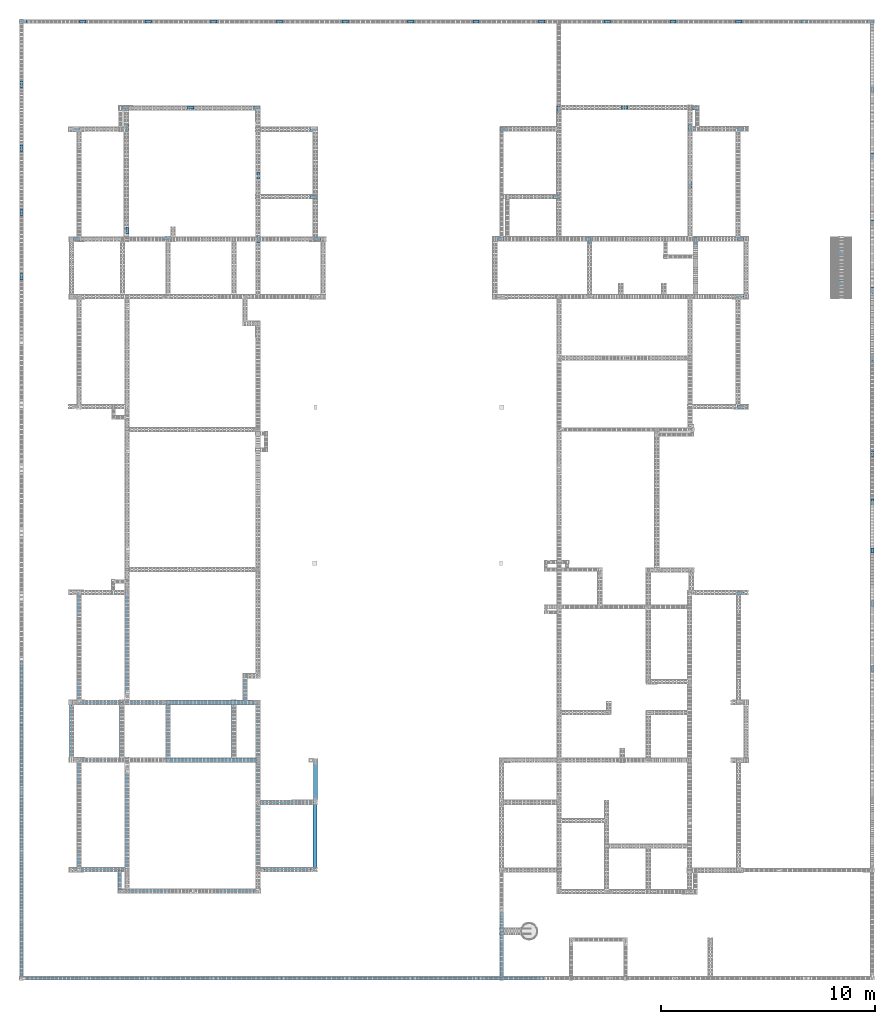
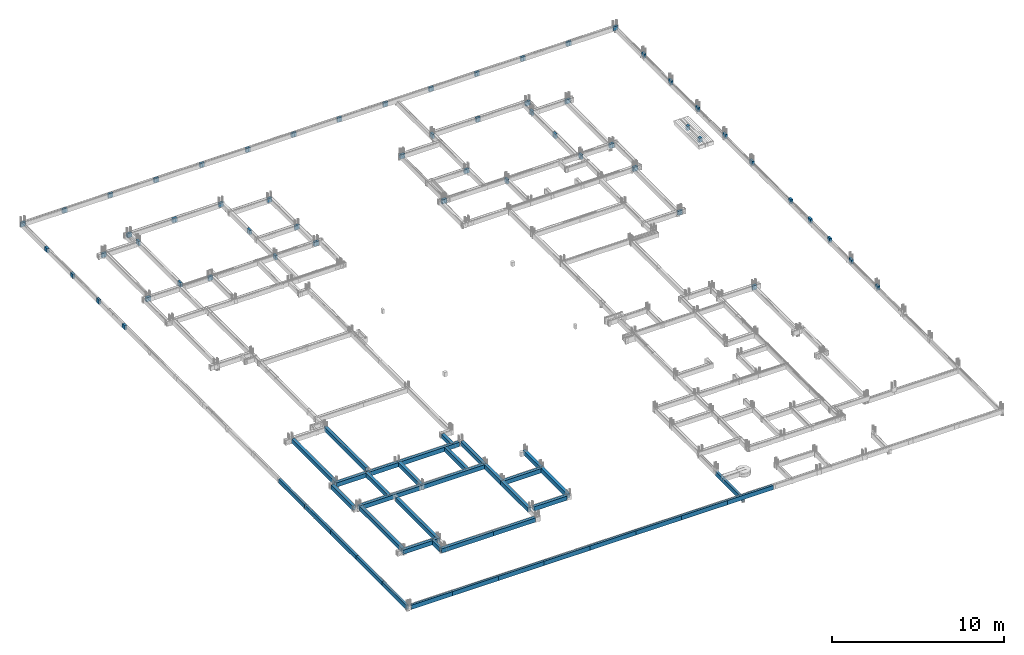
# One storey, part 2 of 150: 58 columns, 38 beams.
"""IFC4 building model written with IfcOpenShell, lengths in centimetres."""

from ifc_helpers import new_model, si_unit, derived_unit, frame, origin_with_axes, origin_2d_with_axis, place, context, project, spatial, rectangle, extrude, material, element, save


model = new_model("IFC4")

# Units and contexts
model_context = context("Model", 3, precision=1e-05, world=origin_with_axes(), identifier="Body")
ifc_project = project(units=[si_unit("LENGTHUNIT", "METRE", prefix="CENTI"), si_unit("VOLUMEUNIT", "CUBIC_METRE"), si_unit("AREAUNIT", "SQUARE_METRE"), si_unit("POWERUNIT", "WATT"), si_unit("LUMINOUSFLUXUNIT", "LUMEN"), si_unit("ELECTRICCURRENTUNIT", "AMPERE"), si_unit("PRESSUREUNIT", "PASCAL", prefix="KILO"), si_unit("MASSUNIT", "GRAM", prefix="KILO"), si_unit("PLANEANGLEUNIT", "RADIAN"), derived_unit("VOLUMETRICFLOWRATEUNIT", [(si_unit("LENGTHUNIT", "METRE"), 3), (si_unit("TIMEUNIT", "SECOND"), -1)])], contexts=[model_context])

# Site, building, storey
site_placement = place(None, frame((-4000.0, 0.0, 0.0), z_axis=(0.0, 0.0, 1.0), x_axis=(1.0, 0.0, 0.0)))
site = spatial("IfcSite", under=ifc_project, at=site_placement, Name="PADRÃO")
building_placement = place(site_placement, frame((0.0, 0.0, -14.0)))
building = spatial("IfcBuilding", under=site, at=building_placement, Name="CRECHE PRÉ-ESCOLA TIPO 2")
placement = place(building_placement, origin_with_axes())
storey_placement = place(placement, frame((0.0, 0.0, 30.0), z_axis=(0.0, 0.0, 1.0), x_axis=(1.0, 0.0, 0.0)))
storey = spatial("IfcBuildingStorey", under=building, at=storey_placement, Name="VIGA BALDRAME", CompositionType="ELEMENT", Elevation=16.0)

# Columns
ifc_material = material(Name="Concreto")
for number, where, z_axis, x_axis, name in (
    (1, (16.5, 4488.5, 0.0), (0.0, 0.0, 1.0), (1.0, 0.0, 0.0), "P1"),
    (2, (2751.0, 4488.5, 0.0), (0.0, 0.0, 1.0), (1.0, 0.0, 0.0), "P10"),
):
    element("IfcColumn", number, at=place(storey_placement, frame(where, z_axis=z_axis, x_axis=x_axis)), inside=storey, material=ifc_material, Name=name, context=model_context, shape_type="SolidModel", body=[
        extrude(rectangle(XDim=14.0, YDim=30.0, at=origin_2d_with_axis()), frame((0.0, 0.0, 0.0), z_axis=(0.0, 0.0, 1.0), x_axis=(0.0, -1.0, 0.0)), (0.0, 0.0, -1.0), 30.0),
    ])
for number, where, z_axis, x_axis, name in (
    (3, (3993.0, 1764.11, 0.0), (0.0, 0.0, 1.0), (1.0, 0.0, 0.0), "P100"),
    (4, (3993.0, 1458.11, 0.0), (0.0, 0.0, 1.0), (1.0, 0.0, 0.0), "P103"),
):
    element("IfcColumn", number, at=place(storey_placement, frame(where, z_axis=z_axis, x_axis=x_axis)), inside=storey, material=ifc_material, Name=name, context=model_context, shape_type="SolidModel", body=[
        extrude(rectangle(XDim=14.0, YDim=30.0, at=origin_2d_with_axis()), frame((0.0, 0.0, 0.0), z_axis=(0.0, 0.0, 1.0), x_axis=(-1.0, 0.0, 0.0)), (0.0, 0.0, -1.0), 30.0),
    ])
for number, where, z_axis, x_axis, name in (
    (5, (3058.0, 4488.12, 0.0), (0.0, 0.0, 1.0), (1.0, 0.0, 0.0), "P11"),
    (6, (3365.0, 4488.0, 0.0), (0.0, 0.0, 1.0), (1.0, 0.0, 0.0), "P12"),
    (7, (3672.0, 4488.0, 0.0), (0.0, 0.0, 1.0), (1.0, 0.0, 0.0), "P13"),
    (8, (3984.0, 4488.0, 0.0), (0.0, 0.0, 1.0), (1.0, 0.0, 0.0), "P14"),
):
    element("IfcColumn", number, at=place(storey_placement, frame(where, z_axis=z_axis, x_axis=x_axis)), inside=storey, material=ifc_material, Name=name, context=model_context, shape_type="SolidModel", body=[
        extrude(rectangle(XDim=14.0, YDim=30.0, at=origin_2d_with_axis()), frame((0.0, 0.0, 0.0), z_axis=(0.0, 0.0, 1.0), x_axis=(0.0, -1.0, 0.0)), (0.0, 0.0, -1.0), 30.0),
    ])
column_1_placement = place(storey_placement, frame((8.5, 4194.5, 0.0), z_axis=(0.0, 0.0, 1.0), x_axis=(1.0, 0.0, 0.0)))
element("IfcColumn", 9, at=column_1_placement, inside=storey, material=ifc_material, Name="P15", context=model_context, shape_type="SolidModel", body=[
    extrude(rectangle(XDim=14.0, YDim=30.0, at=origin_2d_with_axis()), origin_with_axes(), (0.0, 0.0, -1.0), 30.0),
])
column_2_placement = place(storey_placement, frame((3992.0, 4168.5, 0.0), z_axis=(0.0, 0.0, 1.0), x_axis=(1.0, 0.0, 0.0)))
element("IfcColumn", 10, at=column_2_placement, inside=storey, material=ifc_material, Name="P16", context=model_context, shape_type="SolidModel", body=[
    extrude(rectangle(XDim=14.0, YDim=30.0, at=origin_2d_with_axis()), frame((0.0, 0.0, 0.0), z_axis=(0.0, 0.0, 1.0), x_axis=(-1.0, 0.0, 0.0)), (0.0, 0.0, -1.0), 30.0),
])
column_3_placement = place(storey_placement, frame((494.67, 4085.0, 0.0), z_axis=(0.0, 0.0, 1.0), x_axis=(1.0, 0.0, 0.0)))
element("IfcColumn", 11, at=column_3_placement, inside=storey, material=ifc_material, Name="P17", context=model_context, shape_type="SolidModel", body=[
    extrude(rectangle(XDim=14.0, YDim=30.0, at=origin_2d_with_axis()), frame((0.0, 0.0, 0.0), z_axis=(0.0, 0.0, 1.0), x_axis=(0.0, 1.0, 0.0)), (0.0, 0.0, -1.0), 30.0),
])
for number, where, z_axis, x_axis, name in (
    (12, (799.85, 4085.0, 0.0), (0.0, 0.0, 1.0), (1.0, 0.0, 0.0), "P18"),
    (13, (1109.71, 4085.0, 0.0), (0.0, 0.0, 1.0), (1.0, 0.0, 0.0), "P19"),
    (14, (295.0, 4488.5, 0.0), (0.0, 0.0, 1.0), (1.0, 0.0, 0.0), "P2"),
):
    element("IfcColumn", number, at=place(storey_placement, frame(where, z_axis=z_axis, x_axis=x_axis)), inside=storey, material=ifc_material, Name=name, context=model_context, shape_type="SolidModel", body=[
        extrude(rectangle(XDim=14.0, YDim=30.0, at=origin_2d_with_axis()), frame((0.0, 0.0, 0.0), z_axis=(0.0, 0.0, 1.0), x_axis=(0.0, -1.0, 0.0)), (0.0, 0.0, -1.0), 30.0),
    ])
column_4_placement = place(storey_placement, frame((2522.5, 4077.02, 0.0), z_axis=(0.0, 0.0, 1.0), x_axis=(1.0, 0.0, 0.0)))
element("IfcColumn", 15, at=column_4_placement, inside=storey, material=ifc_material, Name="P20", context=model_context, shape_type="SolidModel", body=[
    extrude(rectangle(XDim=14.0, YDim=30.0, at=origin_2d_with_axis()), origin_with_axes(), (0.0, 0.0, -1.0), 30.0),
])
for number, where, z_axis, x_axis, name in (
    (16, (2831.98, 4085.02, 0.0), (0.0, 0.0, 1.0), (1.0, 0.0, 0.0), "P21"),
    (17, (3163.5, 4084.02, 0.0), (0.0, 0.0, 1.0), (1.0, 0.0, 0.0), "P22"),
    (18, (267.0, 3985.0, 0.0), (0.0, 0.0, 1.0), (1.0, 0.0, 0.0), "P23"),
):
    element("IfcColumn", number, at=place(storey_placement, frame(where, z_axis=z_axis, x_axis=x_axis)), inside=storey, material=ifc_material, Name=name, context=model_context, shape_type="SolidModel", body=[
        extrude(rectangle(XDim=14.0, YDim=30.0, at=origin_2d_with_axis()), frame((0.0, 0.0, 0.0), z_axis=(0.0, 0.0, 1.0), x_axis=(0.0, -1.0, 0.0)), (0.0, 0.0, -1.0), 30.0),
    ])
column_5_placement = place(storey_placement, frame((503.67, 3991.5, 0.0), z_axis=(0.0, 0.0, 1.0), x_axis=(1.0, 0.0, 0.0)))
element("IfcColumn", 19, at=column_5_placement, inside=storey, material=ifc_material, Name="P24", context=model_context, shape_type="SolidModel", body=[
    extrude(rectangle(XDim=14.0, YDim=30.0, at=origin_2d_with_axis()), origin_with_axes(), (0.0, 0.0, -1.0), 30.0),
])
column_6_placement = place(storey_placement, frame((1376.84, 3985.0, 0.0), z_axis=(0.0, 0.0, 1.0), x_axis=(1.0, 0.0, 0.0)))
element("IfcColumn", 20, at=column_6_placement, inside=storey, material=ifc_material, Name="P25", context=model_context, shape_type="SolidModel", body=[
    extrude(rectangle(XDim=14.0, YDim=30.0, at=origin_2d_with_axis()), frame((0.0, 0.0, 0.0), z_axis=(0.0, 0.0, 1.0), x_axis=(0.0, -1.0, 0.0)), (0.0, 0.0, -1.0), 30.0),
])
column_7_placement = place(storey_placement, frame((2266.76, 3985.0, 0.0), z_axis=(0.0, 0.0, 1.0), x_axis=(1.0, 0.0, 0.0)))
element("IfcColumn", 21, at=column_7_placement, inside=storey, material=ifc_material, Name="P26", context=model_context, shape_type="SolidModel", body=[
    extrude(rectangle(XDim=17.0, YDim=30.0, at=origin_2d_with_axis()), frame((0.0, 0.0, 0.0), z_axis=(0.0, 0.0, 1.0), x_axis=(0.0, -1.0, 0.0)), (0.0, 0.0, -1.0), 30.0),
])
column_8_placement = place(storey_placement, frame((3138.5, 3991.51, 0.0), z_axis=(0.0, 0.0, 1.0), x_axis=(1.0, 0.0, 0.0)))
element("IfcColumn", 22, at=column_8_placement, inside=storey, material=ifc_material, Name="P27", context=model_context, shape_type="SolidModel", body=[
    extrude(rectangle(XDim=14.0, YDim=30.0, at=origin_2d_with_axis()), origin_with_axes(), (0.0, 0.0, -1.0), 30.0),
])
column_9_placement = place(storey_placement, frame((3375.0, 3985.01, 0.0), z_axis=(0.0, 0.0, 1.0), x_axis=(1.0, 0.0, 0.0)))
element("IfcColumn", 23, at=column_9_placement, inside=storey, material=ifc_material, Name="P28", context=model_context, shape_type="SolidModel", body=[
    extrude(rectangle(XDim=14.0, YDim=30.0, at=origin_2d_with_axis()), frame((0.0, 0.0, 0.0), z_axis=(0.0, 0.0, 1.0), x_axis=(0.0, -1.0, 0.0)), (0.0, 0.0, -1.0), 30.0),
])
column_10_placement = place(storey_placement, frame((8.5, 3894.5, 0.0), z_axis=(0.0, 0.0, 1.0), x_axis=(1.0, 0.0, 0.0)))
element("IfcColumn", 24, at=column_10_placement, inside=storey, material=ifc_material, Name="P29", context=model_context, shape_type="SolidModel", body=[
    extrude(rectangle(XDim=14.0, YDim=30.0, at=origin_2d_with_axis()), origin_with_axes(), (0.0, 0.0, -1.0), 30.0),
])
column_11_placement = place(storey_placement, frame((602.0, 4488.45, 0.0), z_axis=(0.0, 0.0, 1.0), x_axis=(1.0, 0.0, 0.0)))
element("IfcColumn", 25, at=column_11_placement, inside=storey, material=ifc_material, Name="P3", context=model_context, shape_type="SolidModel", body=[
    extrude(rectangle(XDim=14.0, YDim=30.0, at=origin_2d_with_axis()), frame((0.0, 0.0, 0.0), z_axis=(0.0, 0.0, 1.0), x_axis=(0.0, -1.0, 0.0)), (0.0, 0.0, -1.0), 30.0),
])
column_12_placement = place(storey_placement, frame((3992.0, 3855.0, 0.0), z_axis=(0.0, 0.0, 1.0), x_axis=(1.0, 0.0, 0.0)))
element("IfcColumn", 26, at=column_12_placement, inside=storey, material=ifc_material, Name="P30", context=model_context, shape_type="SolidModel", body=[
    extrude(rectangle(XDim=14.0, YDim=30.0, at=origin_2d_with_axis()), frame((0.0, 0.0, 0.0), z_axis=(0.0, 0.0, 1.0), x_axis=(-1.0, 0.0, 0.0)), (0.0, 0.0, -1.0), 30.0),
])
for number, where, z_axis, x_axis, name in (
    (27, (1118.72, 3767.78, 0.0), (0.0, 0.0, 1.0), (1.0, 0.0, 0.0), "P31"),
    (28, (3139.43, 3723.26, 0.0), (0.0, 0.0, 1.0), (1.0, 0.0, 0.0), "P32"),
):
    element("IfcColumn", number, at=place(storey_placement, frame(where, z_axis=z_axis, x_axis=x_axis)), inside=storey, material=ifc_material, Name=name, context=model_context, shape_type="SolidModel", body=[
        extrude(rectangle(XDim=14.0, YDim=30.0, at=origin_2d_with_axis()), origin_with_axes(), (0.0, 0.0, -1.0), 30.0),
    ])
column_13_placement = place(storey_placement, frame((1376.84, 3667.5, 0.0), z_axis=(0.0, 0.0, 1.0), x_axis=(1.0, 0.0, 0.0)))
element("IfcColumn", 29, at=column_13_placement, inside=storey, material=ifc_material, Name="P33", context=model_context, shape_type="SolidModel", body=[
    extrude(rectangle(XDim=14.0, YDim=30.0, at=origin_2d_with_axis()), frame((0.0, 0.0, 0.0), z_axis=(0.0, 0.0, 1.0), x_axis=(0.0, 1.0, 0.0)), (0.0, 0.0, -1.0), 30.0),
])
column_14_placement = place(storey_placement, frame((2514.5, 3667.75, 0.0), z_axis=(0.0, 0.0, 1.0), x_axis=(1.0, 0.0, 0.0)))
element("IfcColumn", 30, at=column_14_placement, inside=storey, material=ifc_material, Name="P34", context=model_context, shape_type="SolidModel", body=[
    extrude(rectangle(XDim=14.0, YDim=30.0, at=origin_2d_with_axis()), frame((0.0, 0.0, 0.0), z_axis=(0.0, 0.0, 1.0), x_axis=(0.0, -1.0, 0.0)), (0.0, 0.0, -1.0), 30.0),
])
column_15_placement = place(storey_placement, frame((8.5, 3594.5, 0.0), z_axis=(0.0, 0.0, 1.0), x_axis=(1.0, 0.0, 0.0)))
element("IfcColumn", 31, at=column_15_placement, inside=storey, material=ifc_material, Name="P35", context=model_context, shape_type="SolidModel", body=[
    extrude(rectangle(XDim=14.0, YDim=30.0, at=origin_2d_with_axis()), origin_with_axes(), (0.0, 0.0, -1.0), 30.0),
])
column_16_placement = place(storey_placement, frame((267.01, 3470.0, 0.0), z_axis=(0.0, 0.0, 1.0), x_axis=(1.0, 0.0, 0.0)))
element("IfcColumn", 32, at=column_16_placement, inside=storey, material=ifc_material, Name="P36", context=model_context, shape_type="SolidModel", body=[
    extrude(rectangle(XDim=17.0, YDim=30.0, at=origin_2d_with_axis()), frame((0.0, 0.0, 0.0), z_axis=(0.0, 0.0, 1.0), x_axis=(0.0, -1.0, 0.0)), (0.0, 0.0, -1.0), 30.0),
])
column_17_placement = place(storey_placement, frame((503.67, 3508.5, 0.0), z_axis=(0.0, 0.0, 1.0), x_axis=(1.0, 0.0, 0.0)))
element("IfcColumn", 33, at=column_17_placement, inside=storey, material=ifc_material, Name="P37", context=model_context, shape_type="SolidModel", body=[
    extrude(rectangle(XDim=14.0, YDim=30.0, at=origin_2d_with_axis()), origin_with_axes(), (0.0, 0.0, -1.0), 30.0),
])
column_18_placement = place(storey_placement, frame((3992.0, 3541.5, 0.0), z_axis=(0.0, 0.0, 1.0), x_axis=(1.0, 0.0, 0.0)))
element("IfcColumn", 34, at=column_18_placement, inside=storey, material=ifc_material, Name="P38", context=model_context, shape_type="SolidModel", body=[
    extrude(rectangle(XDim=14.0, YDim=30.0, at=origin_2d_with_axis()), frame((0.0, 0.0, 0.0), z_axis=(0.0, 0.0, 1.0), x_axis=(-1.0, 0.0, 0.0)), (0.0, 0.0, -1.0), 30.0),
])
for number, where, z_axis, x_axis, name in (
    (35, (685.0, 3472.49, 0.0), (0.0, 0.0, 1.0), (1.0, 0.0, 0.0), "P39"),
    (36, (909.0, 4488.5, 0.0), (0.0, 0.0, 1.0), (1.0, 0.0, 0.0), "P4"),
):
    element("IfcColumn", number, at=place(storey_placement, frame(where, z_axis=z_axis, x_axis=x_axis)), inside=storey, material=ifc_material, Name=name, context=model_context, shape_type="SolidModel", body=[
        extrude(rectangle(XDim=14.0, YDim=30.0, at=origin_2d_with_axis()), frame((0.0, 0.0, 0.0), z_axis=(0.0, 0.0, 1.0), x_axis=(0.0, -1.0, 0.0)), (0.0, 0.0, -1.0), 30.0),
    ])
column_19_placement = place(storey_placement, frame((1118.72, 3470.0, 0.0), z_axis=(0.0, 0.0, 1.0), x_axis=(1.0, 0.0, 0.0)))
element("IfcColumn", 37, at=column_19_placement, inside=storey, material=ifc_material, Name="P40", context=model_context, shape_type="SolidModel", body=[
    extrude(rectangle(XDim=14.0, YDim=30.0, at=origin_2d_with_axis()), origin_with_axes(), (0.0, 0.0, -1.0), 30.0),
])
for number, where, z_axis, x_axis, name in (
    (38, (1392.84, 3470.02, 0.0), (0.0, 0.0, 1.0), (1.0, 0.0, 0.0), "P41"),
    (39, (2248.76, 3470.02, 0.0), (0.0, 0.0, 1.0), (1.0, 0.0, 0.0), "P42"),
):
    element("IfcColumn", number, at=place(storey_placement, frame(where, z_axis=z_axis, x_axis=x_axis)), inside=storey, material=ifc_material, Name=name, context=model_context, shape_type="SolidModel", body=[
        extrude(rectangle(XDim=17.0, YDim=30.0, at=origin_2d_with_axis()), frame((0.0, 0.0, 0.0), z_axis=(0.0, 0.0, 1.0), x_axis=(0.0, -1.0, 0.0)), (0.0, 0.0, -1.0), 30.0),
    ])
for number, where, z_axis, x_axis, name in (
    (40, (2668.0, 3464.58, 0.0), (0.0, 0.0, 1.0), (1.0, 0.0, 0.0), "P43"),
    (41, (3163.5, 3464.58, 0.0), (0.0, 0.0, 1.0), (1.0, 0.0, 0.0), "P44"),
):
    element("IfcColumn", number, at=place(storey_placement, frame(where, z_axis=z_axis, x_axis=x_axis)), inside=storey, material=ifc_material, Name=name, context=model_context, shape_type="SolidModel", body=[
        extrude(rectangle(XDim=14.0, YDim=30.0, at=origin_2d_with_axis()), origin_with_axes(), (0.0, 0.0, -1.0), 30.0),
    ])
column_20_placement = place(storey_placement, frame((3372.5, 3470.02, 0.0), z_axis=(0.0, 0.0, 1.0), x_axis=(1.0, 0.0, 0.0)))
element("IfcColumn", 42, at=column_20_placement, inside=storey, material=ifc_material, Name="P45", context=model_context, shape_type="SolidModel", body=[
    extrude(rectangle(XDim=17.0, YDim=30.0, at=origin_2d_with_axis()), frame((0.0, 0.0, 0.0), z_axis=(0.0, 0.0, 1.0), x_axis=(0.0, -1.0, 0.0)), (0.0, 0.0, -1.0), 30.0),
])
column_21_placement = place(storey_placement, frame((8.5, 3294.5, 0.0), z_axis=(0.0, 0.0, 1.0), x_axis=(1.0, 0.0, 0.0)))
element("IfcColumn", 43, at=column_21_placement, inside=storey, material=ifc_material, Name="P46", context=model_context, shape_type="SolidModel", body=[
    extrude(rectangle(XDim=14.0, YDim=30.0, at=origin_2d_with_axis()), origin_with_axes(), (0.0, 0.0, -1.0), 30.0),
])
column_22_placement = place(storey_placement, frame((1216.0, 4488.5, 0.0), z_axis=(0.0, 0.0, 1.0), x_axis=(1.0, 0.0, 0.0)))
element("IfcColumn", 44, at=column_22_placement, inside=storey, material=ifc_material, Name="P5", context=model_context, shape_type="SolidModel", body=[
    extrude(rectangle(XDim=14.0, YDim=30.0, at=origin_2d_with_axis()), frame((0.0, 0.0, 0.0), z_axis=(0.0, 0.0, 1.0), x_axis=(0.0, -1.0, 0.0)), (0.0, 0.0, -1.0), 30.0),
])
column_23_placement = place(storey_placement, frame((3372.5, 3200.02, 0.0), z_axis=(0.0, 0.0, 1.0), x_axis=(1.0, 0.0, 0.0)))
element("IfcColumn", 45, at=column_23_placement, inside=storey, material=ifc_material, Name="P56", context=model_context, shape_type="SolidModel", body=[
    extrude(rectangle(XDim=17.0, YDim=30.0, at=origin_2d_with_axis()), frame((0.0, 0.0, 0.0), z_axis=(0.0, 0.0, 1.0), x_axis=(0.0, -1.0, 0.0)), (0.0, 0.0, -1.0), 30.0),
])
column_24_placement = place(storey_placement, frame((3992.0, 3228.0, 0.0), z_axis=(0.0, 0.0, 1.0), x_axis=(1.0, 0.0, 0.0)))
element("IfcColumn", 46, at=column_24_placement, inside=storey, material=ifc_material, Name="P57", context=model_context, shape_type="SolidModel", body=[
    extrude(rectangle(XDim=14.0, YDim=30.0, at=origin_2d_with_axis()), frame((0.0, 0.0, 0.0), z_axis=(0.0, 0.0, 1.0), x_axis=(-1.0, 0.0, 0.0)), (0.0, 0.0, -1.0), 30.0),
])
column_25_placement = place(storey_placement, frame((1523.0, 4488.33, 0.0), z_axis=(0.0, 0.0, 1.0), x_axis=(1.0, 0.0, 0.0)))
element("IfcColumn", 47, at=column_25_placement, inside=storey, material=ifc_material, Name="P6", context=model_context, shape_type="SolidModel", body=[
    extrude(rectangle(XDim=14.0, YDim=30.0, at=origin_2d_with_axis()), frame((0.0, 0.0, 0.0), z_axis=(0.0, 0.0, 1.0), x_axis=(0.0, -1.0, 0.0)), (0.0, 0.0, -1.0), 30.0),
])
column_26_placement = place(storey_placement, frame((3992.0, 2914.5, 0.0), z_axis=(0.0, 0.0, 1.0), x_axis=(1.0, 0.0, 0.0)))
element("IfcColumn", 48, at=column_26_placement, inside=storey, material=ifc_material, Name="P63", context=model_context, shape_type="SolidModel", body=[
    extrude(rectangle(XDim=14.0, YDim=30.0, at=origin_2d_with_axis()), frame((0.0, 0.0, 0.0), z_axis=(0.0, 0.0, 1.0), x_axis=(-1.0, 0.0, 0.0)), (0.0, 0.0, -1.0), 30.0),
])
for number, where, z_axis, x_axis, name in (
    (49, (3376.0, 2685.02, 0.0), (0.0, 0.0, 1.0), (1.0, 0.0, 0.0), "P69"),
    (50, (1830.0, 4488.5, 0.0), (0.0, 0.0, 1.0), (1.0, 0.0, 0.0), "P7"),
):
    element("IfcColumn", number, at=place(storey_placement, frame(where, z_axis=z_axis, x_axis=x_axis)), inside=storey, material=ifc_material, Name=name, context=model_context, shape_type="SolidModel", body=[
        extrude(rectangle(XDim=14.0, YDim=30.0, at=origin_2d_with_axis()), frame((0.0, 0.0, 0.0), z_axis=(0.0, 0.0, 1.0), x_axis=(0.0, -1.0, 0.0)), (0.0, 0.0, -1.0), 30.0),
    ])
column_27_placement = place(storey_placement, frame((3993.0, 2464.77, 0.0), z_axis=(0.0, 0.0, 1.0), x_axis=(1.0, 0.0, 0.0)))
element("IfcColumn", 51, at=column_27_placement, inside=storey, material=ifc_material, Name="P76", context=model_context, shape_type="SolidModel", body=[
    extrude(rectangle(XDim=14.0, YDim=25.0, at=origin_2d_with_axis()), frame((0.0, 0.0, 0.0), z_axis=(0.0, 0.0, 1.0), x_axis=(-1.0, 0.0, 0.0)), (0.0, 0.0, -1.0), 30.0),
])
column_28_placement = place(storey_placement, frame((2135.99, 4488.5, 0.0), z_axis=(0.0, 0.0, 1.0), x_axis=(1.0, 0.0, 0.0)))
element("IfcColumn", 52, at=column_28_placement, inside=storey, material=ifc_material, Name="P8", context=model_context, shape_type="SolidModel", body=[
    extrude(rectangle(XDim=14.0, YDim=30.0, at=origin_2d_with_axis()), frame((0.0, 0.0, 0.0), z_axis=(0.0, 0.0, 1.0), x_axis=(0.0, -1.0, 0.0)), (0.0, 0.0, -1.0), 30.0),
])
column_29_placement = place(storey_placement, frame((3992.0, 2238.69, 0.0), z_axis=(0.0, 0.0, 1.0), x_axis=(1.0, 0.0, 0.0)))
element("IfcColumn", 53, at=column_29_placement, inside=storey, material=ifc_material, Name="P81", context=model_context, shape_type="SolidModel", body=[
    extrude(rectangle(XDim=14.0, YDim=30.0, at=origin_2d_with_axis()), frame((0.0, 0.0, 0.0), z_axis=(0.0, 0.0, 1.0), x_axis=(-1.0, 0.0, 0.0)), (0.0, 0.0, -1.0), 30.0),
])
column_30_placement = place(storey_placement, frame((3992.0, 2012.61, 0.0), z_axis=(0.0, 0.0, 1.0), x_axis=(1.0, 0.0, 0.0)))
element("IfcColumn", 54, at=column_30_placement, inside=storey, material=ifc_material, Name="P85", context=model_context, shape_type="SolidModel", body=[
    extrude(rectangle(XDim=14.0, YDim=25.0, at=origin_2d_with_axis()), frame((0.0, 0.0, 0.0), z_axis=(0.0, 0.0, 1.0), x_axis=(-1.0, 0.0, 0.0)), (0.0, 0.0, -1.0), 30.0),
])
column_31_placement = place(storey_placement, frame((2444.0, 4488.19, 0.0), z_axis=(0.0, 0.0, 1.0), x_axis=(1.0, 0.0, 0.0)))
element("IfcColumn", 55, at=column_31_placement, inside=storey, material=ifc_material, Name="P9", context=model_context, shape_type="SolidModel", body=[
    extrude(rectangle(XDim=14.0, YDim=30.0, at=origin_2d_with_axis()), frame((0.0, 0.0, 0.0), z_axis=(0.0, 0.0, 1.0), x_axis=(0.0, -1.0, 0.0)), (0.0, 0.0, -1.0), 30.0),
])
column_32_placement = place(storey_placement, frame((3372.5, 1815.02, 0.0), z_axis=(0.0, 0.0, 1.0), x_axis=(1.0, 0.0, 0.0)))
element("IfcColumn", 56, at=column_32_placement, inside=storey, material=ifc_material, Name="P97", context=model_context, shape_type="SolidModel", body=[
    extrude(rectangle(XDim=17.0, YDim=30.0, at=origin_2d_with_axis()), frame((0.0, 0.0, 0.0), z_axis=(0.0, 0.0, 1.0), x_axis=(0.0, 1.0, 0.0)), (0.0, 0.0, -1.0), 30.0),
])
for number, where, z_axis, x_axis, name in (
    (57, (3845.84, 3405.02, 0.0), (0.0, 0.0, 1.0), (1.0, 0.0, 0.0), "PM1"),
    (58, (3845.84, 3265.02, 0.0), (0.0, 0.0, 1.0), (1.0, 0.0, 0.0), "PM2"),
):
    element("IfcColumn", number, at=place(storey_placement, frame(where, z_axis=z_axis, x_axis=x_axis)), inside=storey, material=ifc_material, Name=name, context=model_context, shape_type="SolidModel", body=[
        extrude(rectangle(XDim=20.0, YDim=20.0, at=origin_2d_with_axis()), frame((0.0, 0.0, 0.0), z_axis=(0.0, 0.0, 1.0), x_axis=(0.0, -1.0, 0.0)), (0.0, 0.0, -1.0), 30.0),
    ])

# Beams
beam_1_placement = place(storey_placement, frame((889.86, 1300.0, 0.0), z_axis=(0.0, 0.0, 1.0), x_axis=(1.0, 0.0, 0.0)))
element("IfcBeam", 59, at=beam_1_placement, inside=storey, material=ifc_material, Name="V136", context=model_context, shape_type="SolidModel", body=[
    extrude(rectangle(XDim=20.0, YDim=30.0, at=origin_2d_with_axis()), frame((-204.86, 0.0, -15.0), z_axis=(1.0, 0.0, 0.0), x_axis=(0.0, 1.0, 0.0)), (0.0, 0.0, 1.0), 409.72),
])
for number, where, z_axis, x_axis, name in (
    (60, (477.25, 1300.0, 0.0), (0.0, 0.0, 1.0), (1.0, 0.0, 0.0), "V136"),
    (61, (477.25, 1031.0, 0.0), (0.0, 0.0, 1.0), (1.0, 0.0, 0.0), "V140"),
):
    element("IfcBeam", number, at=place(storey_placement, frame(where, z_axis=z_axis, x_axis=x_axis)), inside=storey, material=ifc_material, Name=name, context=model_context, shape_type="SolidModel", body=[
        extrude(rectangle(XDim=20.0, YDim=30.0, at=origin_2d_with_axis()), frame((-207.75, 0.0, -15.0), z_axis=(1.0, 0.0, 0.0), x_axis=(0.0, 1.0, 0.0)), (0.0, 0.0, 1.0), 415.5),
    ])
beam_2_placement = place(storey_placement, frame((898.36, 1031.0, 0.0), z_axis=(0.0, 0.0, 1.0), x_axis=(1.0, 0.0, 0.0)))
element("IfcBeam", 62, at=beam_2_placement, inside=storey, material=ifc_material, Name="V140", context=model_context, shape_type="SolidModel", body=[
    extrude(rectangle(XDim=20.0, YDim=30.0, at=origin_2d_with_axis()), frame((-213.36, 0.0, -15.0), z_axis=(1.0, 0.0, 0.0), x_axis=(0.0, 1.0, 0.0)), (0.0, 0.0, 1.0), 426.72),
])
beam_3_placement = place(storey_placement, frame((1251.78, 832.23, 0.0), z_axis=(0.0, 0.0, 1.0), x_axis=(1.0, 0.0, 0.0)))
element("IfcBeam", 63, at=beam_3_placement, inside=storey, material=ifc_material, Name="V145", context=model_context, shape_type="SolidModel", body=[
    extrude(rectangle(XDim=20.0, YDim=30.0, at=origin_2d_with_axis()), frame((-126.118701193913, -0.740344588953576, -15.0), z_axis=(1.0, 0.00587011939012, 0.0), x_axis=(-0.00587011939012, 1.0, 0.0)), (0.0, 0.0, 1.0), 252.241748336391),
])
beam_4_placement = place(storey_placement, frame((381.285, 517.5, 0.0), z_axis=(0.0, 0.0, 1.0), x_axis=(1.0, 0.0, 0.0)))
element("IfcBeam", 64, at=beam_4_placement, inside=storey, material=ifc_material, Name="V149", context=model_context, shape_type="SolidModel", body=[
    extrude(rectangle(XDim=20.0, YDim=30.0, at=origin_2d_with_axis()), frame((-115.285, 0.0, -15.0), z_axis=(1.0, 0.0, 0.0), x_axis=(0.0, 1.0, 0.0)), (0.0, 0.0, 1.0), 230.57),
])
beam_5_placement = place(storey_placement, frame((1252.28, 517.51, 0.0), z_axis=(0.0, 0.0, 1.0), x_axis=(1.0, 0.0, 0.0)))
element("IfcBeam", 65, at=beam_5_placement, inside=storey, material=ifc_material, Name="V150", context=model_context, shape_type="SolidModel", body=[
    extrude(rectangle(XDim=20.0, YDim=30.0, at=origin_2d_with_axis()), frame((-109.56, 0.0, -15.0), z_axis=(1.0, 0.0, 0.0), x_axis=(0.0, 1.0, 0.0)), (0.0, 0.0, 1.0), 219.12),
])
beam_6_placement = place(storey_placement, frame((638.395, 417.5, 0.0), z_axis=(0.0, 0.0, 1.0), x_axis=(1.0, 0.0, 0.0)))
element("IfcBeam", 66, at=beam_6_placement, inside=storey, material=ifc_material, Name="V154", context=model_context, shape_type="SolidModel", body=[
    extrude(rectangle(XDim=20.0, YDim=30.0, at=origin_2d_with_axis()), frame((-173.395, 0.0, -15.0), z_axis=(1.0, 0.0, 0.0), x_axis=(0.0, 1.0, 0.0)), (0.0, 0.0, 1.0), 346.79),
])
beam_7_placement = place(storey_placement, frame((953.755, 417.51, 0.0), z_axis=(0.0, 0.0, 1.0), x_axis=(1.0, 0.0, 0.0)))
element("IfcBeam", 67, at=beam_7_placement, inside=storey, material=ifc_material, Name="V154", context=model_context, shape_type="SolidModel", body=[
    extrude(rectangle(XDim=20.0, YDim=30.0, at=origin_2d_with_axis()), frame((-141.965, 0.0, -15.0), z_axis=(1.0, 0.0, 0.0), x_axis=(0.0, 1.0, 0.0)), (0.0, 0.0, 1.0), 283.93),
])
beam_8_placement = place(storey_placement, frame((168.0, 9.5, 0.0), z_axis=(0.0, 0.0, 1.0), x_axis=(1.0, 0.0, 0.0)))
element("IfcBeam", 68, at=beam_8_placement, inside=storey, material=ifc_material, Name="V158", context=model_context, shape_type="SolidModel", body=[
    extrude(rectangle(XDim=15.0, YDim=30.0, at=origin_2d_with_axis()), frame((-136.5, 0.0, -15.0), z_axis=(1.0, 0.0, 0.0), x_axis=(0.0, 1.0, 0.0)), (0.0, 0.0, 1.0), 273.0),
])
for number, where, z_axis, x_axis, name in (
    (69, (458.0, 9.5, 0.0), (0.0, 0.0, 1.0), (1.0, 0.0, 0.0), "V158"),
    (70, (765.0, 9.5, 0.0), (0.0, 0.0, 1.0), (1.0, 0.0, 0.0), "V158"),
    (71, (1072.0, 9.5, 0.0), (0.0, 0.0, 1.0), (1.0, 0.0, 0.0), "V158"),
    (72, (1379.0, 9.5, 0.0), (0.0, 0.0, 1.0), (1.0, 0.0, 0.0), "V158"),
    (73, (1993.0, 9.5, 0.0), (0.0, 0.0, 1.0), (1.0, 0.0, 0.0), "V158"),
    (74, (2300.0, 9.5, 0.0), (0.0, 0.0, 1.0), (1.0, 0.0, 0.0), "V158"),
    (75, (1686.0, 9.5, 0.0), (0.0, 0.0, 1.0), (1.0, 0.0, 0.0), "V158"),
):
    element("IfcBeam", number, at=place(storey_placement, frame(where, z_axis=z_axis, x_axis=x_axis)), inside=storey, material=ifc_material, Name=name, context=model_context, shape_type="SolidModel", body=[
        extrude(rectangle(XDim=15.0, YDim=30.0, at=origin_2d_with_axis()), frame((-153.5, 0.0, -15.0), z_axis=(1.0, 0.0, 0.0), x_axis=(0.0, 1.0, 0.0)), (0.0, 0.0, 1.0), 307.0),
    ])
for number, where, z_axis, x_axis, name in (
    (76, (9.0, 1344.5, 0.0), (0.0, 0.0, 1.0), (1.0, 0.0, 0.0), "V159"),
    (77, (9.0, 1044.5, 0.0), (0.0, 0.0, 1.0), (1.0, 0.0, 0.0), "V159"),
):
    element("IfcBeam", number, at=place(storey_placement, frame(where, z_axis=z_axis, x_axis=x_axis)), inside=storey, material=ifc_material, Name=name, context=model_context, shape_type="SolidModel", body=[
        extrude(rectangle(XDim=15.0, YDim=30.0, at=origin_2d_with_axis()), frame((0.0, -150.0, -15.0), z_axis=(0.0, 1.0, 0.0), x_axis=(-1.0, 0.0, 0.0)), (0.0, 0.0, 1.0), 300.0),
    ])
beam_9_placement = place(storey_placement, frame((9.0, 155.25, 0.0), z_axis=(0.0, 0.0, 1.0), x_axis=(1.0, 0.0, 0.0)))
element("IfcBeam", 78, at=beam_9_placement, inside=storey, material=ifc_material, Name="V159", context=model_context, shape_type="SolidModel", body=[
    extrude(rectangle(XDim=15.0, YDim=30.0, at=origin_2d_with_axis()), frame((0.0, -139.25, -15.0), z_axis=(0.0, 1.0, 0.0), x_axis=(-1.0, 0.0, 0.0)), (0.0, 0.0, 1.0), 278.5),
])
for number, where, z_axis, x_axis, name in (
    (79, (9.0, 444.5, 0.0), (0.0, 0.0, 1.0), (1.0, 0.0, 0.0), "V159"),
    (80, (9.0, 744.5, 0.0), (0.0, 0.0, 1.0), (1.0, 0.0, 0.0), "V159"),
):
    element("IfcBeam", number, at=place(storey_placement, frame(where, z_axis=z_axis, x_axis=x_axis)), inside=storey, material=ifc_material, Name=name, context=model_context, shape_type="SolidModel", body=[
        extrude(rectangle(XDim=15.0, YDim=30.0, at=origin_2d_with_axis()), frame((0.0, -150.0, -15.0), z_axis=(0.0, 1.0, 0.0), x_axis=(-1.0, 0.0, 0.0)), (0.0, 0.0, 1.0), 300.0),
    ])
beam_10_placement = place(storey_placement, frame((279.0, 772.0, 0.0), z_axis=(0.0, 0.0, 1.0), x_axis=(1.0, 0.0, 0.0)))
element("IfcBeam", 81, at=beam_10_placement, inside=storey, material=ifc_material, Name="V160", context=model_context, shape_type="SolidModel", body=[
    extrude(rectangle(XDim=20.0, YDim=30.0, at=origin_2d_with_axis()), frame((0.0, -250.0, -15.0), z_axis=(0.0, 1.0, 0.0), x_axis=(-1.0, 0.0, 0.0)), (0.0, 0.0, 1.0), 500.0),
])
beam_11_placement = place(storey_placement, frame((243.69, 1165.5, 0.0), z_axis=(0.0, 0.0, 1.0), x_axis=(1.0, 0.0, 0.0)))
element("IfcBeam", 82, at=beam_11_placement, inside=storey, material=ifc_material, Name="V161", context=model_context, shape_type="SolidModel", body=[
    extrude(rectangle(XDim=20.0, YDim=30.0, at=origin_2d_with_axis()), frame((0.0, -124.5, -15.0), z_axis=(0.0, 1.0, 0.0), x_axis=(-1.0, 0.0, 0.0)), (0.0, 0.0, 1.0), 249.0),
])
beam_12_placement = place(storey_placement, frame((279.0, 1557.5, 0.0), z_axis=(0.0, 0.0, 1.0), x_axis=(1.0, 0.0, 0.0)))
element("IfcBeam", 83, at=beam_12_placement, inside=storey, material=ifc_material, Name="V162", context=model_context, shape_type="SolidModel", body=[
    extrude(rectangle(XDim=20.0, YDim=30.0, at=origin_2d_with_axis()), frame((0.0, -249.0, -15.0), z_axis=(0.0, 1.0, 0.0), x_axis=(-1.0, 0.0, 0.0)), (0.0, 0.0, 1.0), 498.0),
])
beam_13_placement = place(storey_placement, frame((503.57, 750.01, 0.0), z_axis=(0.0, 0.0, 1.0), x_axis=(1.0, 0.0, 0.0)))
element("IfcBeam", 84, at=beam_13_placement, inside=storey, material=ifc_material, Name="V166", context=model_context, shape_type="SolidModel", body=[
    extrude(rectangle(XDim=20.0, YDim=30.0, at=origin_2d_with_axis()), frame((0.0, -241.5, -15.0), z_axis=(0.0, 1.0, 0.0), x_axis=(1.0, 0.0, 0.0)), (0.0, 0.0, 1.0), 483.0),
])
beam_14_placement = place(storey_placement, frame((468.49, 470.25, 0.0), z_axis=(0.0, 0.0, 1.0), x_axis=(1.0, 0.0, 0.0)))
element("IfcBeam", 85, at=beam_14_placement, inside=storey, material=ifc_material, Name="V167", context=model_context, shape_type="SolidModel", body=[
    extrude(rectangle(XDim=15.0, YDim=30.0, at=origin_2d_with_axis()), frame((0.0, -47.25, -15.0), z_axis=(0.0, 1.0, 0.0), x_axis=(1.0, 0.0, 0.0)), (0.0, 0.0, 1.0), 94.5),
])
beam_15_placement = place(storey_placement, frame((478.69, 1165.5, 0.0), z_axis=(0.0, 0.0, 1.0), x_axis=(1.0, 0.0, 0.0)))
element("IfcBeam", 86, at=beam_15_placement, inside=storey, material=ifc_material, Name="V168", context=model_context, shape_type="SolidModel", body=[
    extrude(rectangle(XDim=20.0, YDim=30.0, at=origin_2d_with_axis()), frame((0.0, -134.5, -15.0), z_axis=(0.0, 1.0, 0.0), x_axis=(-1.0, 0.0, 0.0)), (0.0, 0.0, 1.0), 269.0),
])
beam_16_placement = place(storey_placement, frame((503.69, 1580.005, 0.0), z_axis=(0.0, 0.0, 1.0), x_axis=(1.0, 0.0, 0.0)))
element("IfcBeam", 87, at=beam_16_placement, inside=storey, material=ifc_material, Name="V171", context=model_context, shape_type="SolidModel", body=[
    extrude(rectangle(XDim=20.0, YDim=30.0, at=origin_2d_with_axis()), frame((0.0, -241.495, -15.0), z_axis=(0.0, 1.0, 0.0), x_axis=(-1.0, 0.0, 0.0)), (0.0, 0.0, 1.0), 482.99),
])
beam_17_placement = place(storey_placement, frame((695.5, 1165.005, 0.0), z_axis=(0.0, 0.0, 1.0), x_axis=(1.0, 0.0, 0.0)))
element("IfcBeam", 88, at=beam_17_placement, inside=storey, material=ifc_material, Name="V175", context=model_context, shape_type="SolidModel", body=[
    extrude(rectangle(XDim=20.0, YDim=30.0, at=origin_2d_with_axis()), frame((0.0, -130.495, -15.0), z_axis=(0.0, 1.0, 0.0), x_axis=(1.0, 0.0, 0.0)), (0.0, 0.0, 1.0), 260.99),
])
beam_18_placement = place(storey_placement, frame((1003.45, 1165.5, 0.0), z_axis=(0.0, 0.0, 1.0), x_axis=(1.0, 0.0, 0.0)))
element("IfcBeam", 89, at=beam_18_placement, inside=storey, material=ifc_material, Name="V178", context=model_context, shape_type="SolidModel", body=[
    extrude(rectangle(XDim=20.0, YDim=30.0, at=origin_2d_with_axis()), frame((0.0, -124.5, -15.0), z_axis=(0.0, 1.0, 0.0), x_axis=(1.0, 0.0, 0.0)), (0.0, 0.0, 1.0), 249.0),
])
beam_19_placement = place(storey_placement, frame((1056.0, 1357.5, 0.0), z_axis=(0.0, 0.0, 1.0), x_axis=(1.0, 0.0, 0.0)))
element("IfcBeam", 90, at=beam_19_placement, inside=storey, material=ifc_material, Name="V180", context=model_context, shape_type="SolidModel", body=[
    extrude(rectangle(XDim=20.0, YDim=30.0, at=origin_2d_with_axis()), frame((0.0, -57.5, -15.0), z_axis=(0.0, 1.0, 0.0), x_axis=(1.0, 0.0, 0.0)), (0.0, 0.0, 1.0), 115.0),
])
beam_20_placement = place(storey_placement, frame((1116.0, 674.255, 0.0), z_axis=(0.0, 0.0, 1.0), x_axis=(1.0, 0.0, 0.0)))
element("IfcBeam", 91, at=beam_20_placement, inside=storey, material=ifc_material, Name="V182", context=model_context, shape_type="SolidModel", body=[
    extrude(rectangle(XDim=20.0, YDim=30.0, at=origin_2d_with_axis()), frame((0.0, -159.245, -15.0), z_axis=(0.0, 1.0, 0.0), x_axis=(1.0, 0.0, 0.0)), (0.0, 0.0, 1.0), 318.49),
])
beam_21_placement = place(storey_placement, frame((1116.0, 931.0, 0.0), z_axis=(0.0, 0.0, 1.0), x_axis=(1.0, 0.0, 0.0)))
element("IfcBeam", 92, at=beam_21_placement, inside=storey, material=ifc_material, Name="V182", context=model_context, shape_type="SolidModel", body=[
    extrude(rectangle(XDim=20.0, YDim=30.0, at=origin_2d_with_axis()), frame((0.0, -97.5, -15.0), z_axis=(0.0, 1.0, 0.0), x_axis=(1.0, 0.0, 0.0)), (0.0, 0.0, 1.0), 195.0),
])
beam_22_placement = place(storey_placement, frame((1116.0, 1162.0, 0.0), z_axis=(0.0, 0.0, 1.0), x_axis=(1.0, 0.0, 0.0)))
element("IfcBeam", 93, at=beam_22_placement, inside=storey, material=ifc_material, Name="V182", context=model_context, shape_type="SolidModel", body=[
    extrude(rectangle(XDim=20.0, YDim=30.0, at=origin_2d_with_axis()), frame((0.0, -133.5, -15.0), z_axis=(0.0, 1.0, 0.0), x_axis=(1.0, 0.0, 0.0)), (0.0, 0.0, 1.0), 267.0),
])
beam_23_placement = place(storey_placement, frame((1382.49, 681.555, 0.0), z_axis=(0.0, 0.0, 1.0), x_axis=(1.0, 0.0, 0.0)))
element("IfcBeam", 94, at=beam_23_placement, inside=storey, material=ifc_material, Name="V186", context=model_context, shape_type="SolidModel", body=[
    extrude(rectangle(XDim=20.0, YDim=30.0, at=origin_2d_with_axis()), frame((0.0, -159.545, -15.0), z_axis=(0.0, 1.0, 0.0), x_axis=(1.0, 0.0, 0.0)), (0.0, 0.0, 1.0), 319.09),
])
beam_24_placement = place(storey_placement, frame((1384.84, 939.805, 0.0), z_axis=(0.0, 0.0, 1.0), x_axis=(1.0, 0.0, 0.0)))
element("IfcBeam", 95, at=beam_24_placement, inside=storey, material=ifc_material, Name="V186", context=model_context, shape_type="SolidModel", body=[
    extrude(rectangle(XDim=20.0, YDim=30.0, at=origin_2d_with_axis()), frame((0.0, -98.705, -15.0), z_axis=(0.0, 1.0, 0.0), x_axis=(1.0, 0.0, 0.0)), (0.0, 0.0, 1.0), 197.41),
])
beam_25_placement = place(storey_placement, frame((2255.98, 164.26, -20.0), z_axis=(0.0, 0.0, 1.0), x_axis=(1.0, 0.0, 0.0)))
element("IfcBeam", 96, at=beam_25_placement, inside=storey, material=ifc_material, Name="V189", context=model_context, shape_type="SolidModel", body=[
    extrude(rectangle(XDim=15.0, YDim=30.0, at=origin_2d_with_axis()), frame((0.0, -154.76, -15.0), z_axis=(0.0, 1.0, 0.0), x_axis=(1.0, 0.0, 0.0)), (0.0, 0.0, 1.0), 309.52),
])

save(model, "model.ifc")
